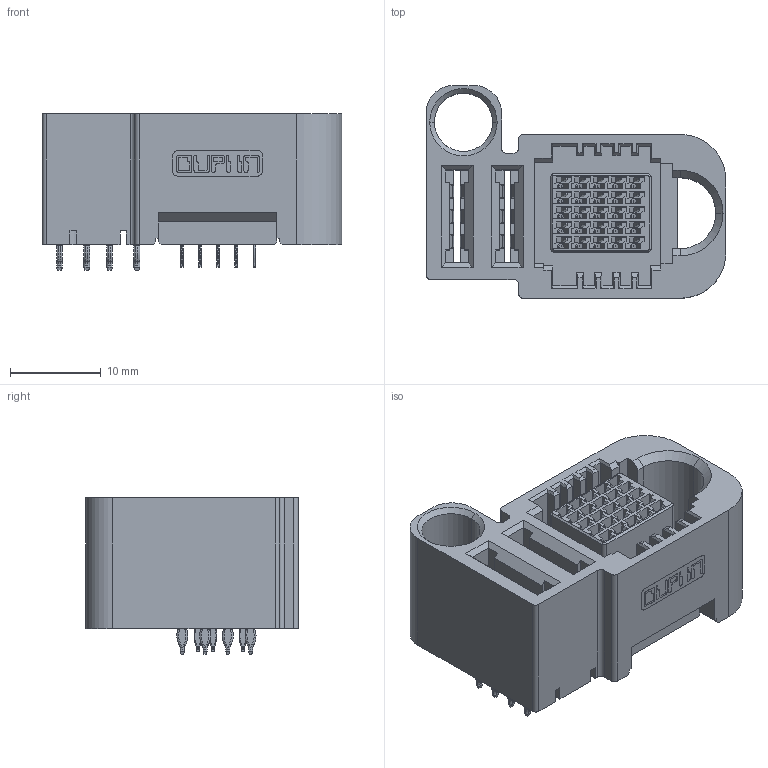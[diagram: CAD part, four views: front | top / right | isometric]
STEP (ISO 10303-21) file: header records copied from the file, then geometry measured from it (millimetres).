
FILE_DESCRIPTION (( 'STEP AP214' ), '1' );
FILE_NAME ('9395-2D02S25B71PNG3A-A001.STEP', '2025-06-09T06:15:51', ( '' ), ( '' ), 'SwSTEP 2.0', 'SolidWorks 2011', '' );
FILE_SCHEMA (( 'AUTOMOTIVE_DESIGN' ));
Length unit declared in the file: millimetre
Products named in the file (1): 9395-2D02S25B71PNG3A-A001
Bounding box: 32.96 x 23.37 x 17.21 mm (x, y, z)
Volume: 5533.9 mm3; surface area: 6844.8 mm2
Topology: 1 solids, 9 shells, 3224 faces, 8859 edges, 5728 vertices
Faces by surface type: plane 1888, cylinder 823, bspline 474, cone 39
Entity records: 109823 total; most frequent: CARTESIAN_POINT 33097, ORIENTED_EDGE 17718, DIRECTION 13747, EDGE_CURVE 8859, LINE 5849, VECTOR 5849, VERTEX_POINT 5728, AXIS2_PLACEMENT_3D 3949
